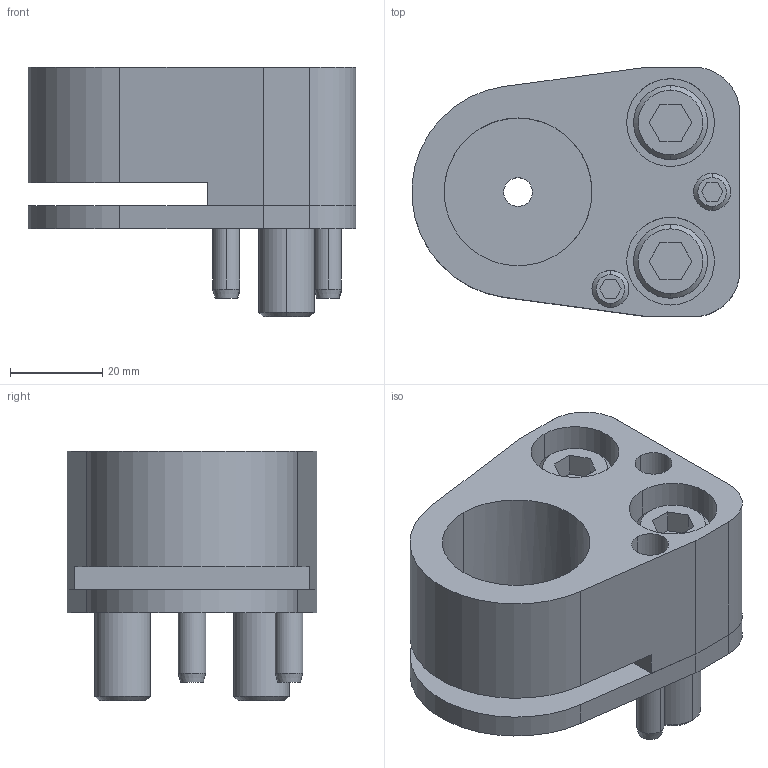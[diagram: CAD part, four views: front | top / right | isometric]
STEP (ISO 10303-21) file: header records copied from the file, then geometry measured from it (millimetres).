
FILE_DESCRIPTION(/* description */ (''),/* implementation_level */ '2;1');
FILE_NAME(/* name */ '3d_cp-fp32_03609_r00.stp',/* time_stamp */ '2011-01-10T14:16:27+09:00',/* author */ ('MISUMI'),/* organization */ (''),/* preprocessor_version */ 'ST-DEVELOPER v11',/* originating_system */ 'UGS - NX 5.0',/* authorisation */ '');
FILE_SCHEMA (('CONFIG_CONTROL_DESIGN'));
Length unit declared in the file: millimetre
Products named in the file (1): 3d_cp-fp32_03609_r00
Bounding box: 70.92 x 54 x 54 mm (x, y, z)
Volume: 84300.4 mm3; surface area: 31918.1 mm2
Topology: 8 solids, 8 shells, 154 faces, 352 edges, 227 vertices
Faces by surface type: plane 68, cylinder 60, cone 26
Entity records: 4514 total; most frequent: DIRECTION 802, CARTESIAN_POINT 791, ORIENTED_EDGE 704, EDGE_CURVE 352, AXIS2_PLACEMENT_3D 302, VERTEX_POINT 227, LINE 198, VECTOR 198
